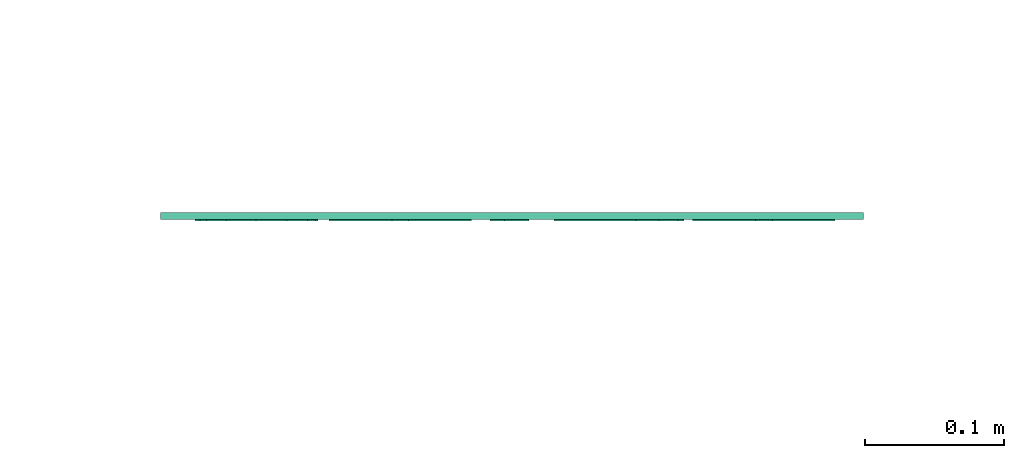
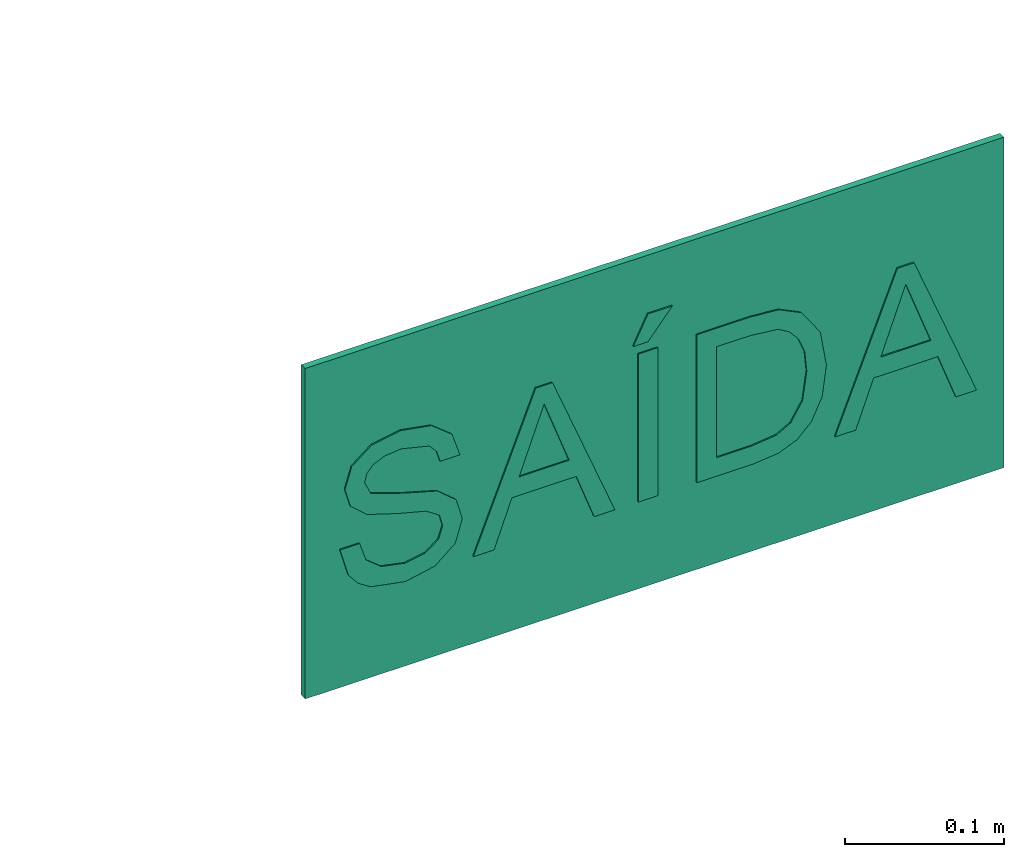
# One storey, part 5 of 9: 1 flow terminal.
"""IFC2X3 building model written with IfcOpenShell, lengths in metres."""

from ifc_helpers import new_model, entity, si_unit, converted_unit, derived_unit, direction, frame, origin, origin_2d_with_axis, place, context, subcontext, project, spatial, polyline, rectangle, outline, extrude, source, transform, mapped, material, material_list, type_object, type_shapes, element, save


model = new_model("IFC2X3")

# Units and contexts
model_context = context("Model", 3, precision=1e-05, world=origin(), true_north=direction((6.12303176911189e-17, 1.0)))
body_context = subcontext(model_context, "Body", "Model", "MODEL_VIEW")
ifc_project = project(units=[si_unit("LENGTHUNIT", "METRE"), si_unit("AREAUNIT", "SQUARE_METRE"), si_unit("VOLUMEUNIT", "CUBIC_METRE"), converted_unit("PLANEANGLEUNIT", "DEGREE", entity("IfcRatioMeasure", 0.0174532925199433), si_unit("PLANEANGLEUNIT", "RADIAN"), dimensions=[0, 0, 0, 0, 0, 0, 0]), si_unit("MASSUNIT", "GRAM", prefix="KILO"), derived_unit("MASSDENSITYUNIT", [(si_unit("MASSUNIT", "GRAM", prefix="KILO"), 1), (si_unit("LENGTHUNIT", "METRE"), -3)]), derived_unit("MOMENTOFINERTIAUNIT", [(si_unit("LENGTHUNIT", "METRE"), 4)]), si_unit("TIMEUNIT", "SECOND"), si_unit("FREQUENCYUNIT", "HERTZ"), si_unit("THERMODYNAMICTEMPERATUREUNIT", "DEGREE_CELSIUS"), derived_unit("THERMALTRANSMITTANCEUNIT", [(si_unit("MASSUNIT", "GRAM", prefix="KILO"), 1), (si_unit("THERMODYNAMICTEMPERATUREUNIT", "KELVIN"), -1), (si_unit("TIMEUNIT", "SECOND"), -3)]), derived_unit("VOLUMETRICFLOWRATEUNIT", [(si_unit("LENGTHUNIT", "METRE"), 3), (si_unit("TIMEUNIT", "SECOND"), -1)]), si_unit("ELECTRICCURRENTUNIT", "AMPERE"), si_unit("ELECTRICVOLTAGEUNIT", "VOLT"), si_unit("POWERUNIT", "WATT"), si_unit("FORCEUNIT", "NEWTON", prefix="KILO"), si_unit("ILLUMINANCEUNIT", "LUX"), si_unit("LUMINOUSFLUXUNIT", "LUMEN"), si_unit("LUMINOUSINTENSITYUNIT", "CANDELA"), derived_unit("USERDEFINED", [(si_unit("MASSUNIT", "GRAM", prefix="KILO"), -1), (si_unit("LENGTHUNIT", "METRE"), -2), (si_unit("TIMEUNIT", "SECOND"), 3), (si_unit("LUMINOUSFLUXUNIT", "LUMEN"), 1)]), derived_unit("LINEARVELOCITYUNIT", [(si_unit("LENGTHUNIT", "METRE"), 1), (si_unit("TIMEUNIT", "SECOND"), -1)]), si_unit("PRESSUREUNIT", "PASCAL"), derived_unit("USERDEFINED", [(si_unit("LENGTHUNIT", "METRE"), -2), (si_unit("MASSUNIT", "GRAM", prefix="KILO"), 1), (si_unit("TIMEUNIT", "SECOND"), -2)]), derived_unit("LINEARFORCEUNIT", [(si_unit("MASSUNIT", "GRAM", prefix="KILO"), 1), (si_unit("LENGTHUNIT", "METRE"), 1), (si_unit("TIMEUNIT", "SECOND"), -2), (si_unit("LENGTHUNIT", "METRE"), -1)]), derived_unit("PLANARFORCEUNIT", [(si_unit("MASSUNIT", "GRAM", prefix="KILO"), 1), (si_unit("LENGTHUNIT", "METRE"), 1), (si_unit("TIMEUNIT", "SECOND"), -2), (si_unit("LENGTHUNIT", "METRE"), -2)])], contexts=[model_context])

# Site, building, storey
site_placement = place(None, origin())
site = spatial("IfcSite", under=ifc_project, at=site_placement, Name="Default", CompositionType="ELEMENT")
building_placement = place(site_placement, origin())
building = spatial("IfcBuilding", under=site, at=building_placement, Name="C.L. MONSENHOR ANTÔNIO SAMPAIO", CompositionType="ELEMENT")
storey_placement = place(building_placement, origin())
storey = spatial("IfcBuildingStorey", under=building, at=storey_placement, Name="TÉRREO", CompositionType="ELEMENT", Elevation=0.0)

# Flow terminal
ifc_material_1 = material(Name="Branco")
ifc_material_2 = material(Name="VERDE")
ifc_material_list = material_list([ifc_material_1, ifc_material_2])
distribution_element_type = type_object("IfcDistributionElementType", Name="S12:20 metros", material=ifc_material_1)
shared_shape = source(origin(), body_context, "Body", "SweptSolid", [
    extrude(outline(polyline([(-0.0443068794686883, 0.0183286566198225), (-0.0301530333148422, 0.0183286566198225), (-0.0255917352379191, 0.0324963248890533), (-0.0144511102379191, 0.041453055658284), (0.00252244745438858, 0.0448671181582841), (0.0173121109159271, 0.042282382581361), (0.0268631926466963, 0.0351778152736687), (0.030000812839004, 0.0256820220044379), (0.0276510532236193, 0.0168496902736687), (0.0180308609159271, 0.0104224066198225), (-0.0025779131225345, 0.00501795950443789), (-0.0247624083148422, -0.00196220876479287), (-0.0368014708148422, -0.0124946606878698), (-0.0407684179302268, -0.0265655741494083), (-0.0358615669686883, -0.0425854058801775), (-0.0215280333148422, -0.0538918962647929), (-0.000546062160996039, -0.0577482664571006), (0.0218457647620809, -0.0537122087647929), (0.0367736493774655, -0.0418528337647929), (0.0423854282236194, -0.024132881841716), (0.0282315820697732, -0.024132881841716), (0.0256330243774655, -0.032578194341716), (0.0202147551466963, -0.0386737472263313), (6.82245438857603e-06, -0.0435944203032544), (-0.0120115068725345, -0.0423780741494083), (-0.0202563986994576, -0.0387290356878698), (-0.0250250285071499, -0.0333591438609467), (-0.0266145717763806, -0.0269802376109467), (-0.022108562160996, -0.0171665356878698), (0.00100201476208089, -0.00926028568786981), (0.026047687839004, -0.0021557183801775), (0.0397454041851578, 0.00931663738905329), (0.0441546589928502, 0.0253226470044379), (0.0390819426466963, 0.0422547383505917), (0.0244857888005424, 0.0546117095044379), (0.00307533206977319, 0.0590209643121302), (-0.0222053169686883, 0.0542661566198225), (-0.0312968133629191, 0.0483088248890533), (-0.0381975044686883, 0.039946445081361), (-0.0443068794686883, 0.0183286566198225)])), frame((-0.183923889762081, -0.006, 0.124397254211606), z_axis=(0.0, 1.0, 0.0), x_axis=(1.0, 0.0, 0.0)), (0.0, 0.0, 1.0), 0.006),
    extrude(outline(polyline([(-0.0534954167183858, -0.0337974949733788), (0.0684229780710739, -0.0337974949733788), (0.0728912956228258, -0.0226034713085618), (-0.0155147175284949, 0.0613517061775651), (-0.0210591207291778, 0.0474618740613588), (0.00699755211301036, 0.0223025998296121), (-0.0102915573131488, -0.0210100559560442), (-0.0479510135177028, -0.0199076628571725), (-0.0534954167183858, -0.0337974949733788)]), holes=[polyline([(0.00478042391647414, -0.0214304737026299), (0.0182263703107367, 0.0122542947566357), (0.0402987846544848, -0.00753972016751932), (0.0575118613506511, -0.0229532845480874), (0.0370034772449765, -0.0223570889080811), (0.00478042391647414, -0.0214304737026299)])]), frame((-0.0805034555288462, -0.006, 0.104299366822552), z_axis=(0.0, 1.0, 0.0), x_axis=(0.370725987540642, 0.0, 0.92874229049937)), (0.0, 0.0, 1.0), 0.006),
    extrude(outline(polyline([(-0.0150332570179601, -0.00632979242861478), (0.00870346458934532, -0.00632979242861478), (0.0166157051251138, 0.00949468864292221), (-0.010285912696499, 0.00316489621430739), (-0.0150332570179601, -0.00632979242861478)])), frame((-0.00353846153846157, -0.006, 0.198068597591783), z_axis=(0.0, 1.0, 0.0), x_axis=(0.447213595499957, 0.0, 0.894427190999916)), (0.0, 0.0, 1.0), 0.006),
    extrude(outline(polyline([(-0.0537288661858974, -0.0586552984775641), (0.0595019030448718, -0.0586552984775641), (0.0595019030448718, -0.019594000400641), (0.0578708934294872, 0.000613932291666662), (0.0497711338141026, 0.0172557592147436), (0.0304201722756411, 0.0306632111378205), (0.00349469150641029, 0.0351139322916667), (-0.019353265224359, 0.0321007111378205), (-0.0358430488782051, 0.0243603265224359), (-0.0461128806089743, 0.0140213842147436), (-0.0517937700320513, 0.000489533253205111), (-0.0537288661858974, -0.0177141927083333), (-0.0537288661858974, -0.0586552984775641)]), holes=[polyline([(-0.0395750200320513, -0.0445014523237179), (-0.0395750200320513, -0.0194557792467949), (-0.0375293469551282, -0.00123823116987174), (-0.031751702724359, 0.00926657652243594), (-0.0176946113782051, 0.0178777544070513), (0.00371584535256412, 0.0209600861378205), (0.0191413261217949, 0.0194500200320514), (0.030530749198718, 0.0149198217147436), (0.0383540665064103, 0.00822646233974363), (0.0430812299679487, 0.000226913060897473), (0.0453480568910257, -0.0198427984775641), (0.0453480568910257, -0.0445014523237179), (-0.0395750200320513, -0.0445014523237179)])]), frame((0.0887322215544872, -0.006, 0.120874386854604), z_axis=(0.0, 1.0, 0.0), x_axis=(0.0, 0.0, 1.0)), (0.0, 0.0, 1.0), 0.006),
    extrude(outline(polyline([(-0.0534954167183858, -0.0337974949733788), (0.0684229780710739, -0.0337974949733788), (0.0728912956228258, -0.0226034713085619), (-0.0155147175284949, 0.0613517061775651), (-0.0210591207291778, 0.0474618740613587), (0.00699755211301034, 0.0223025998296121), (-0.0102915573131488, -0.0210100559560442), (-0.0479510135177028, -0.0199076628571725), (-0.0534954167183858, -0.0337974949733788)]), holes=[polyline([(0.00478042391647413, -0.0214304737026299), (0.0182263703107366, 0.0122542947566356), (0.0402987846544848, -0.00753972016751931), (0.0575118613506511, -0.0229532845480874), (0.0370034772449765, -0.0223570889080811), (0.00478042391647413, -0.0214304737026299)])]), frame((0.181342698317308, -0.006, 0.104299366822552), z_axis=(0.0, 1.0, 0.0), x_axis=(0.370725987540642, 0.0, 0.92874229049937)), (0.0, 0.0, 1.0), 0.006),
    extrude(rectangle(XDim=0.006, YDim=0.0141538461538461, at=origin_2d_with_axis()), frame((-0.00530769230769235, -0.003, 0.0671455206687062), z_axis=(0.0, 0.0, 1.0), x_axis=(0.0, 1.0, 0.0)), (0.0, 0.0, 1.0), 0.113230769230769),
    extrude(rectangle(XDim=0.005, YDim=0.505999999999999, at=origin_2d_with_axis()), frame((0.0, -0.0025, 0.0), z_axis=(0.0, 0.0, 1.0), x_axis=(0.0, 1.0, 0.0)), (0.0, 0.0, 1.0), 0.252999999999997),
])
type_shapes(distribution_element_type, [shared_shape])
flow_terminal_placement = place(building_placement, frame((7.02303915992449, -34.6996421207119, 2.48)))
element("IfcFlowTerminal", 1, at=flow_terminal_placement, inside=storey, type_object=distribution_element_type, material=ifc_material_list, Name="S12:20 metros", ObjectType="S12:20 metros", context=body_context, shape_type="MappedRepresentation", body=[
    mapped(shared_shape, transform((0.0, 0.0, 0.0), scale=1.0)),
])

save(model, "model.ifc")
